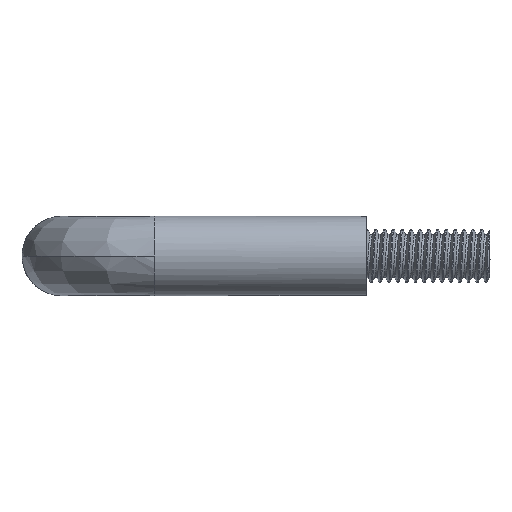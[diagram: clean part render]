
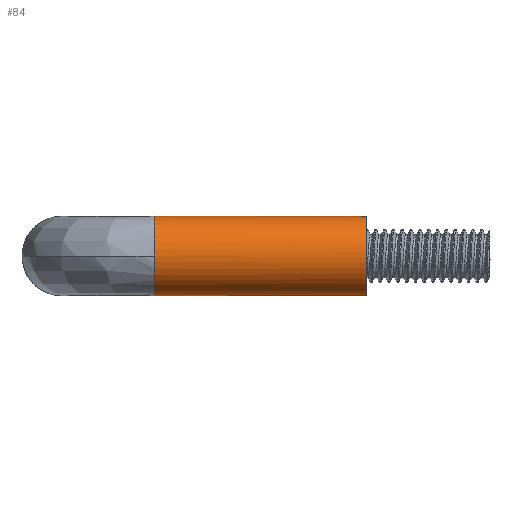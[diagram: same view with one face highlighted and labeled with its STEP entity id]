
A CAD part, left-side view. The second image highlights one B-rep face of the part: STEP entity #84.
In plain terms, the highlighted cylindrical face has radius 4.5 mm (diameter 9 mm), a partial arc.
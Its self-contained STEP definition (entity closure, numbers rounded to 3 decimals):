
#84=ADVANCED_FACE('',(#166),#1411,.T.);
#166=FACE_OUTER_BOUND('',#248,.T.);
#248=EDGE_LOOP('',(#543,#544,#545,#546,#547));
#543=ORIENTED_EDGE('',*,*,#749,.F.);
#544=ORIENTED_EDGE('',*,*,#729,.F.);
#545=ORIENTED_EDGE('',*,*,#824,.T.);
#546=ORIENTED_EDGE('',*,*,#751,.F.);
#547=ORIENTED_EDGE('',*,*,#825,.T.);
#729=EDGE_CURVE('',#1194,#1195,#1043,.T.);
#749=EDGE_CURVE('',#1195,#1212,#965,.T.);
#751=EDGE_CURVE('',#1213,#1214,#966,.T.);
#824=EDGE_CURVE('',#1194,#1214,#1068,.T.);
#825=EDGE_CURVE('',#1213,#1212,#1069,.T.);
#965=B_SPLINE_CURVE_WITH_KNOTS('',1,(#5420,#5421),.UNSPECIFIED.,.F.,.F.,
(2,2),(0.,24.),.UNSPECIFIED.);
#966=B_SPLINE_CURVE_WITH_KNOTS('',1,(#5427,#5428),.UNSPECIFIED.,.F.,.F.,
(2,2),(0.,24.),.UNSPECIFIED.);
#1043=(
BOUNDED_CURVE()
B_SPLINE_CURVE(2,(#5363,#5364,#5365),.UNSPECIFIED.,.F.,.F.)
B_SPLINE_CURVE_WITH_KNOTS((3,3),(0.,7.069),.UNSPECIFIED.)
CURVE()
GEOMETRIC_REPRESENTATION_ITEM()
RATIONAL_B_SPLINE_CURVE((1.,0.707,1.))
REPRESENTATION_ITEM('')
);
#1068=(
BOUNDED_CURVE()
B_SPLINE_CURVE(2,(#5646,#5647,#5648),.UNSPECIFIED.,.F.,.F.)
B_SPLINE_CURVE_WITH_KNOTS((3,3),(0.,7.069),.UNSPECIFIED.)
CURVE()
GEOMETRIC_REPRESENTATION_ITEM()
RATIONAL_B_SPLINE_CURVE((1.,0.707,1.))
REPRESENTATION_ITEM('')
);
#1069=(
BOUNDED_CURVE()
B_SPLINE_CURVE(2,(#5649,#5650,#5651,#5652,#5653),.UNSPECIFIED.,.F.,.F.)
B_SPLINE_CURVE_WITH_KNOTS((3,2,3),(0.,7.069,14.137),
 .UNSPECIFIED.)
CURVE()
GEOMETRIC_REPRESENTATION_ITEM()
RATIONAL_B_SPLINE_CURVE((1.,0.707,1.,0.707,1.))
REPRESENTATION_ITEM('')
);
#1194=VERTEX_POINT('',#5208);
#1195=VERTEX_POINT('',#5209);
#1212=VERTEX_POINT('',#5226);
#1213=VERTEX_POINT('',#5227);
#1214=VERTEX_POINT('',#5228);
#1411=CYLINDRICAL_SURFACE('',#1579,4.5);
#1579=AXIS2_PLACEMENT_3D('',#1937,#1650,$);
#1650=DIRECTION('',(0.,-1.,0.));
#1937=CARTESIAN_POINT('',(-50.,26.,0.));
#5208=CARTESIAN_POINT('',(-54.5,38.,0.));
#5209=CARTESIAN_POINT('',(-50.,38.,4.5));
#5226=CARTESIAN_POINT('',(-50.,14.,4.5));
#5227=CARTESIAN_POINT('',(-50.,14.,-4.5));
#5228=CARTESIAN_POINT('',(-50.,38.,-4.5));
#5363=CARTESIAN_POINT('',(-54.5,38.,0.));
#5364=CARTESIAN_POINT('',(-54.5,38.,4.5));
#5365=CARTESIAN_POINT('',(-50.,38.,4.5));
#5420=CARTESIAN_POINT('',(-50.,38.,4.5));
#5421=CARTESIAN_POINT('',(-50.,14.,4.5));
#5427=CARTESIAN_POINT('',(-50.,14.,-4.5));
#5428=CARTESIAN_POINT('',(-50.,38.,-4.5));
#5646=CARTESIAN_POINT('',(-54.5,38.,0.));
#5647=CARTESIAN_POINT('',(-54.5,38.,-4.5));
#5648=CARTESIAN_POINT('',(-50.,38.,-4.5));
#5649=CARTESIAN_POINT('',(-50.,14.,-4.5));
#5650=CARTESIAN_POINT('',(-54.5,14.,-4.5));
#5651=CARTESIAN_POINT('',(-54.5,14.,0.));
#5652=CARTESIAN_POINT('',(-54.5,14.,4.5));
#5653=CARTESIAN_POINT('',(-50.,14.,4.5));
